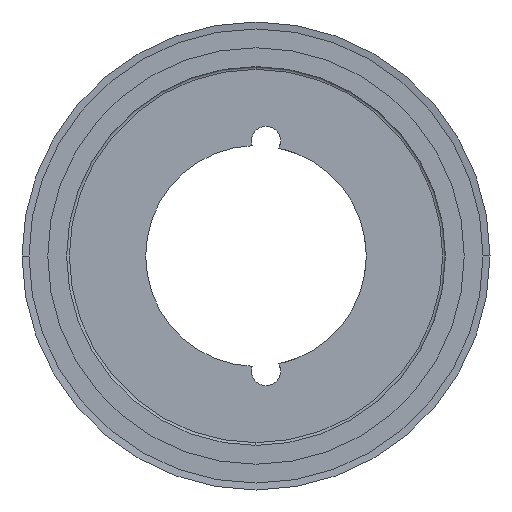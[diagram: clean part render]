
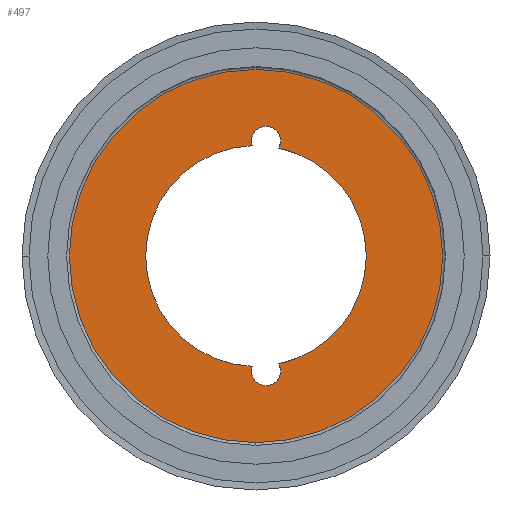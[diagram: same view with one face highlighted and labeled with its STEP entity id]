
A CAD part, left-side view. The second image highlights one B-rep face of the part: STEP entity #497.
In plain terms, the highlighted planar face has unit normal (-1, 0, 0).
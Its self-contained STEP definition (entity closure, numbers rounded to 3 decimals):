
#497 = ADVANCED_FACE( '', ( #1354, #1355 ), #1356, .T. );
#1354 = FACE_BOUND( '', #2222, .T. );
#1355 = FACE_OUTER_BOUND( '', #2223, .T. );
#1356 = PLANE( '', #2224 );
#2222 = EDGE_LOOP( '', ( #5975, #5976, #5977, #5978, #5979, #5980, #5981, #5982, #5983, #5984 ) );
#2223 = EDGE_LOOP( '', ( #5985, #5986, #5987 ) );
#2224 = AXIS2_PLACEMENT_3D( '', #5988, #5989, #5990 );
#5975 = ORIENTED_EDGE( '', *, *, #6126, .T. );
#5976 = ORIENTED_EDGE( '', *, *, #6129, .T. );
#5977 = ORIENTED_EDGE( '', *, *, #6128, .T. );
#5978 = ORIENTED_EDGE( '', *, *, #6121, .F. );
#5979 = ORIENTED_EDGE( '', *, *, #6133, .F. );
#5980 = ORIENTED_EDGE( '', *, *, #6137, .T. );
#5981 = ORIENTED_EDGE( '', *, *, #6113, .T. );
#5982 = ORIENTED_EDGE( '', *, *, #6108, .T. );
#5983 = ORIENTED_EDGE( '', *, *, #6134, .F. );
#5984 = ORIENTED_EDGE( '', *, *, #6119, .F. );
#5985 = ORIENTED_EDGE( '', *, *, #7301, .T. );
#5986 = ORIENTED_EDGE( '', *, *, #6071, .T. );
#5987 = ORIENTED_EDGE( '', *, *, #7302, .T. );
#5988 = CARTESIAN_POINT( '', ( 7.5, 53.302, 0. ) );
#5989 = DIRECTION( '', ( -1., 0., 0. ) );
#5990 = DIRECTION( '', ( 0., 1., 0. ) );
#6071 = EDGE_CURVE( '', #7343, #7349, #7351, .T. );
#6108 = EDGE_CURVE( '', #7412, #7415, #7417, .T. );
#6113 = EDGE_CURVE( '', #7419, #7412, #7426, .T. );
#6119 = EDGE_CURVE( '', #7435, #7427, #7437, .T. );
#6121 = EDGE_CURVE( '', #7438, #7441, #7442, .T. );
#6126 = EDGE_CURVE( '', #7435, #7448, #7450, .T. );
#6128 = EDGE_CURVE( '', #7451, #7441, #7453, .T. );
#6129 = EDGE_CURVE( '', #7448, #7451, #7454, .T. );
#6133 = EDGE_CURVE( '', #7457, #7438, #7459, .T. );
#6134 = EDGE_CURVE( '', #7427, #7415, #7460, .T. );
#6137 = EDGE_CURVE( '', #7457, #7419, #7463, .T. );
#7301 = EDGE_CURVE( '', #9395, #7343, #9396, .T. );
#7302 = EDGE_CURVE( '', #7349, #9395, #9397, .T. );
#7343 = VERTEX_POINT( '', #9445 );
#7349 = VERTEX_POINT( '', #9451 );
#7351 = CIRCLE( '', #9453, 67. );
#7412 = VERTEX_POINT( '', #9569 );
#7415 = VERTEX_POINT( '', #9573 );
#7417 = CIRCLE( '', #9584, 5.25 );
#7419 = VERTEX_POINT( '', #9586 );
#7426 = CIRCLE( '', #9612, 5.25 );
#7427 = VERTEX_POINT( '', #9613 );
#7435 = VERTEX_POINT( '', #9636 );
#7437 = CIRCLE( '', #9647, 39.603 );
#7438 = VERTEX_POINT( '', #9648 );
#7441 = VERTEX_POINT( '', #9652 );
#7442 = CIRCLE( '', #9653, 39.603 );
#7448 = VERTEX_POINT( '', #9677 );
#7450 = CIRCLE( '', #9680, 5.25 );
#7451 = VERTEX_POINT( '', #9681 );
#7453 = CIRCLE( '', #9684, 5.25 );
#7454 = CIRCLE( '', #9685, 5.25 );
#7457 = VERTEX_POINT( '', #9688 );
#7459 = CIRCLE( '', #9699, 39.603 );
#7460 = CIRCLE( '', #9700, 39.603 );
#7463 = CIRCLE( '', #9736, 5.25 );
#9395 = VERTEX_POINT( '', #12308 );
#9396 = CIRCLE( '', #12309, 67. );
#9397 = CIRCLE( '', #12310, 67. );
#9445 = CARTESIAN_POINT( '', ( 7.5, 0., -67. ) );
#9451 = CARTESIAN_POINT( '', ( 7.5, 0., 67. ) );
#9453 = AXIS2_PLACEMENT_3D( '', #12369, #12370, #12371 );
#9569 = CARTESIAN_POINT( '', ( 7.5, 1.653, -41.275 ) );
#9573 = CARTESIAN_POINT( '', ( 7.5, 1.371, -39.58 ) );
#9584 = AXIS2_PLACEMENT_3D( '', #12435, #12436, #12437 );
#9586 = CARTESIAN_POINT( '', ( 7.5, -8.847, -41.275 ) );
#9612 = AXIS2_PLACEMENT_3D( '', #12442, #12443, #12444 );
#9613 = CARTESIAN_POINT( '', ( 7.5, 39.603, 0. ) );
#9636 = CARTESIAN_POINT( '', ( 7.5, 1.371, 39.58 ) );
#9647 = AXIS2_PLACEMENT_3D( '', #12449, #12450, #12451 );
#9648 = CARTESIAN_POINT( '', ( 7.5, -39.603, 0. ) );
#9652 = CARTESIAN_POINT( '', ( 7.5, -8.198, 38.746 ) );
#9653 = AXIS2_PLACEMENT_3D( '', #12453, #12454, #12455 );
#9677 = CARTESIAN_POINT( '', ( 7.5, 1.653, 41.275 ) );
#9680 = AXIS2_PLACEMENT_3D( '', #12460, #12461, #12462 );
#9681 = CARTESIAN_POINT( '', ( 7.5, -8.847, 41.275 ) );
#9684 = AXIS2_PLACEMENT_3D( '', #12464, #12465, #12466 );
#9685 = AXIS2_PLACEMENT_3D( '', #12467, #12468, #12469 );
#9688 = CARTESIAN_POINT( '', ( 7.5, -8.198, -38.746 ) );
#9699 = AXIS2_PLACEMENT_3D( '', #12476, #12477, #12478 );
#9700 = AXIS2_PLACEMENT_3D( '', #12479, #12480, #12481 );
#9736 = AXIS2_PLACEMENT_3D( '', #12485, #12486, #12487 );
#12308 = CARTESIAN_POINT( '', ( 7.5, 67., 0. ) );
#12309 = AXIS2_PLACEMENT_3D( '', #14697, #14698, #14699 );
#12310 = AXIS2_PLACEMENT_3D( '', #14700, #14701, #14702 );
#12369 = CARTESIAN_POINT( '', ( 7.5, 0., 0. ) );
#12370 = DIRECTION( '', ( -1., 0., 0. ) );
#12371 = DIRECTION( '', ( 0., 1., 0. ) );
#12435 = CARTESIAN_POINT( '', ( 7.5, -3.597, -41.275 ) );
#12436 = DIRECTION( '', ( 1., 0., 0. ) );
#12437 = DIRECTION( '', ( 0., -1., 0. ) );
#12442 = CARTESIAN_POINT( '', ( 7.5, -3.597, -41.275 ) );
#12443 = DIRECTION( '', ( 1., 0., 0. ) );
#12444 = DIRECTION( '', ( 0., -1., 0. ) );
#12449 = CARTESIAN_POINT( '', ( 7.5, 0., 0. ) );
#12450 = DIRECTION( '', ( -1., 0., 0. ) );
#12451 = DIRECTION( '', ( 0., 1., 0. ) );
#12453 = CARTESIAN_POINT( '', ( 7.5, 0., 0. ) );
#12454 = DIRECTION( '', ( -1., 0., 0. ) );
#12455 = DIRECTION( '', ( 0., 1., 0. ) );
#12460 = CARTESIAN_POINT( '', ( 7.5, -3.597, 41.275 ) );
#12461 = DIRECTION( '', ( 1., 0., 0. ) );
#12462 = DIRECTION( '', ( 0., -1., 0. ) );
#12464 = CARTESIAN_POINT( '', ( 7.5, -3.597, 41.275 ) );
#12465 = DIRECTION( '', ( 1., 0., 0. ) );
#12466 = DIRECTION( '', ( 0., -1., 0. ) );
#12467 = CARTESIAN_POINT( '', ( 7.5, -3.597, 41.275 ) );
#12468 = DIRECTION( '', ( 1., 0., 0. ) );
#12469 = DIRECTION( '', ( 0., -1., 0. ) );
#12476 = CARTESIAN_POINT( '', ( 7.5, 0., 0. ) );
#12477 = DIRECTION( '', ( -1., 0., 0. ) );
#12478 = DIRECTION( '', ( 0., 1., 0. ) );
#12479 = CARTESIAN_POINT( '', ( 7.5, 0., 0. ) );
#12480 = DIRECTION( '', ( -1., 0., 0. ) );
#12481 = DIRECTION( '', ( 0., 1., 0. ) );
#12485 = CARTESIAN_POINT( '', ( 7.5, -3.597, -41.275 ) );
#12486 = DIRECTION( '', ( 1., 0., 0. ) );
#12487 = DIRECTION( '', ( 0., -1., 0. ) );
#14697 = CARTESIAN_POINT( '', ( 7.5, 0., 0. ) );
#14698 = DIRECTION( '', ( -1., 0., 0. ) );
#14699 = DIRECTION( '', ( 0., 1., 0. ) );
#14700 = CARTESIAN_POINT( '', ( 7.5, 0., 0. ) );
#14701 = DIRECTION( '', ( -1., 0., 0. ) );
#14702 = DIRECTION( '', ( 0., 1., 0. ) );
